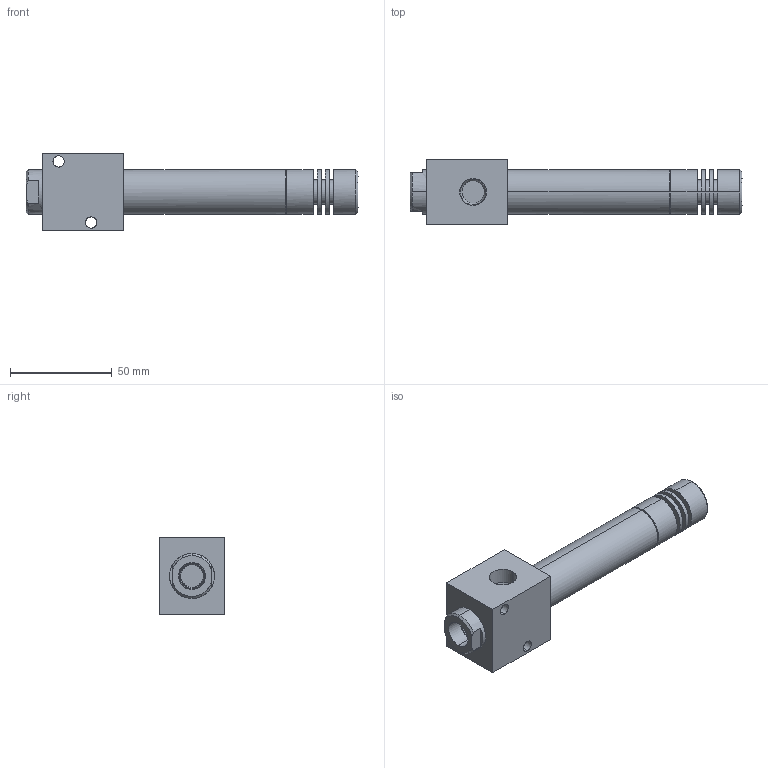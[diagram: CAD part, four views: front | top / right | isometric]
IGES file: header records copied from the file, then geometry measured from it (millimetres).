
Global section: file name: E:\UnigraphicsGraphicData\MISUMI_PRESS-PARTS\IGES\3d_pajc300_04935_r00.igs; native system: NX V5.0; preprocessor: UGS NX IGES V5.0; author: MISUMI; date: 20110105.162217; units: millimetre
Bounding box: 163 x 32 x 38 mm (x, y, z)
Surface area: 21440 mm2 (no closed solid volume)
Topology: 0 solids, 0 shells, 100 faces, 724 edges, 724 vertices
Faces by surface type: bspline 100
